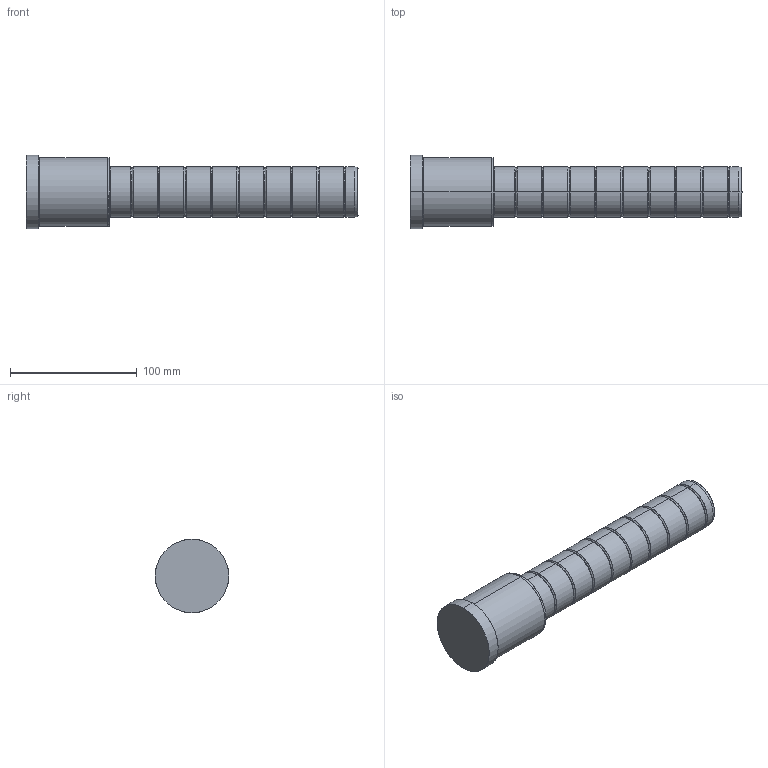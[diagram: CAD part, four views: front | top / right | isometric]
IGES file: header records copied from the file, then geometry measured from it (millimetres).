
Start section: SolidWorks IGES file using analytic representation for surfaces
Global section: file name: C:\Documents and Settings\kalite-mail\Desktop\IGS\D02\40\D02 - 40x66x196.IGS; native system: SolidWorks 2008; preprocessor: SolidWorks 2008; author: kalite-mail; date: 080617.100824; units: millimetre
Bounding box: 262 x 58 x 58 mm (x, y, z)
Surface area: 42223.4 mm2 (no closed solid volume)
Topology: 0 solids, 0 shells, 78 faces, 928 edges, 928 vertices
Faces by surface type: bspline 46, revolution 32
